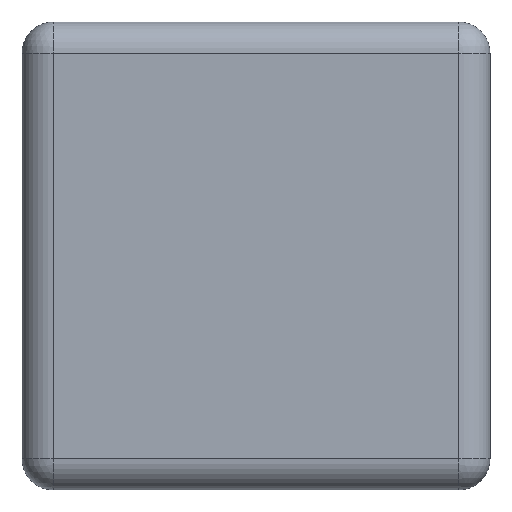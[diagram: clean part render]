
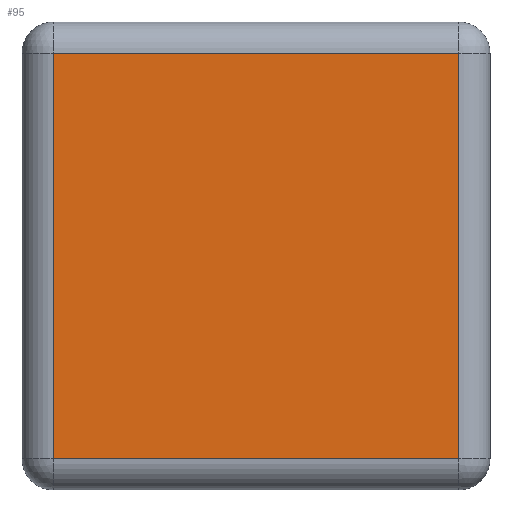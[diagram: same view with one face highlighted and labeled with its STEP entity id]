
A CAD part, top view. The second image highlights one B-rep face of the part: STEP entity #95.
In plain terms, the highlighted planar face has unit normal (0, 0, 1).
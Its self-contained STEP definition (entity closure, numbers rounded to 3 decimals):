
#5 = CARTESIAN_POINT ( 'NONE',  ( -19.5, 19.5, 3. ) ) ;
#41 = EDGE_CURVE ( 'NONE', #225, #374, #237, .T. ) ;
#50 = LINE ( 'NONE', #316, #460 ) ;
#80 = ORIENTED_EDGE ( 'NONE', *, *, #580, .T. ) ;
#95 = ADVANCED_FACE ( 'NONE', ( #617 ), #730, .T. ) ;
#118 = DIRECTION ( 'NONE',  ( 0., 0., 1. ) ) ;
#154 = EDGE_CURVE ( 'NONE', #605, #225, #50, .T. ) ;
#171 = EDGE_CURVE ( 'NONE', #430, #605, #269, .T. ) ;
#180 = VECTOR ( 'NONE', #376, 1000. ) ;
#186 = EDGE_LOOP ( 'NONE', ( #616, #652, #80, #366 ) ) ;
#200 = CARTESIAN_POINT ( 'NONE',  ( -19.5, -19.5, 3. ) ) ;
#225 = VERTEX_POINT ( 'NONE', #454 ) ;
#237 = LINE ( 'NONE', #576, #372 ) ;
#269 = LINE ( 'NONE', #490, #180 ) ;
#287 = CARTESIAN_POINT ( 'NONE',  ( 19.5, -19.5, 3. ) ) ;
#316 = CARTESIAN_POINT ( 'NONE',  ( 19.5, 19.5, 3. ) ) ;
#328 = CARTESIAN_POINT ( 'NONE',  ( 19.5, 19.5, 3. ) ) ;
#366 = ORIENTED_EDGE ( 'NONE', *, *, #171, .T. ) ;
#369 = DIRECTION ( 'NONE',  ( 1., 0., 0. ) ) ;
#370 = DIRECTION ( 'NONE',  ( 0., -1., 0. ) ) ;
#372 = VECTOR ( 'NONE', #465, 1000. ) ;
#374 = VERTEX_POINT ( 'NONE', #5 ) ;
#376 = DIRECTION ( 'NONE',  ( 1., 0., 0. ) ) ;
#405 = CARTESIAN_POINT ( 'NONE',  ( -19.5, -19.5, 3. ) ) ;
#430 = VERTEX_POINT ( 'NONE', #405 ) ;
#454 = CARTESIAN_POINT ( 'NONE',  ( 19.5, 19.5, 3. ) ) ;
#460 = VECTOR ( 'NONE', #668, 1000. ) ;
#465 = DIRECTION ( 'NONE',  ( -1., 0., 0. ) ) ;
#479 = VECTOR ( 'NONE', #370, 1000. ) ;
#490 = CARTESIAN_POINT ( 'NONE',  ( 19.5, -19.5, 3. ) ) ;
#576 = CARTESIAN_POINT ( 'NONE',  ( -19.5, 19.5, 3. ) ) ;
#580 = EDGE_CURVE ( 'NONE', #374, #430, #719, .T. ) ;
#605 = VERTEX_POINT ( 'NONE', #287 ) ;
#613 = AXIS2_PLACEMENT_3D ( 'NONE', #328, #118, #369 ) ;
#616 = ORIENTED_EDGE ( 'NONE', *, *, #154, .T. ) ;
#617 = FACE_OUTER_BOUND ( 'NONE', #186, .T. ) ;
#652 = ORIENTED_EDGE ( 'NONE', *, *, #41, .T. ) ;
#668 = DIRECTION ( 'NONE',  ( 0., 1., 0. ) ) ;
#719 = LINE ( 'NONE', #200, #479 ) ;
#730 = PLANE ( 'NONE',  #613 ) ;
